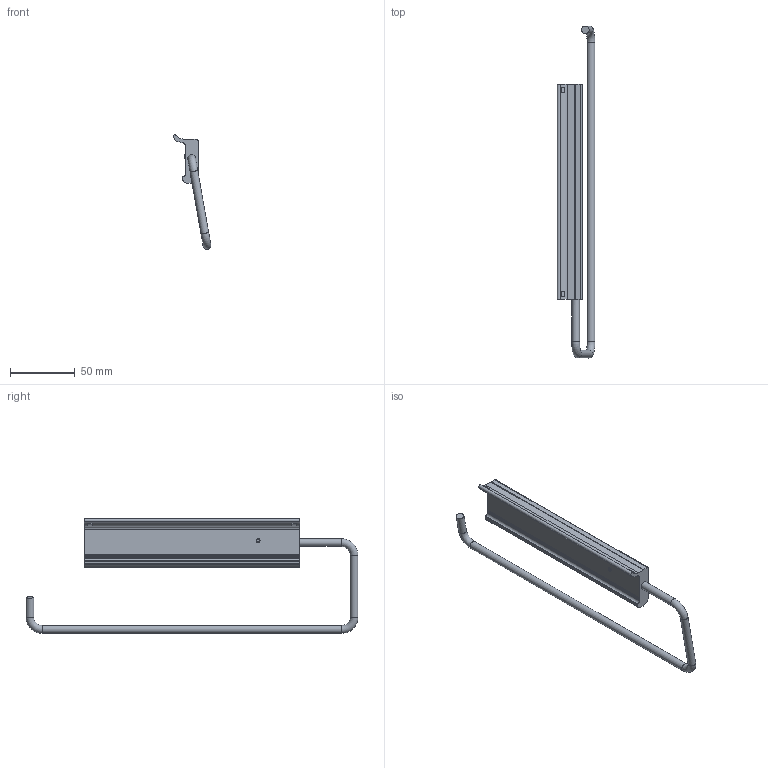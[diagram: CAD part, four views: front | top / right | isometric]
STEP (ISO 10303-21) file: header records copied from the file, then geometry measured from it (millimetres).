
FILE_DESCRIPTION(/* description */ ('Unknown'),/* implementation_level */ '2;1');
FILE_NAME(/* name */ '032 123 05 Zawieszka na ręcznik',/* time_stamp */ '2023-04-18T08:24:53+02:00',/* author */ ('Unknown'),/* organization */ ('Unknown'),/* preprocessor_version */ 'ST-DEVELOPER v18.102',/* originating_system */ 'Solid Edge',/* authorisation */ 'Unknown');
FILE_SCHEMA (('AUTOMOTIVE_DESIGN {1 0 10303 214 3 1 1}'));
Length unit declared in the file: millimetre
Products named in the file (5): 032 123 05 Zawieszka na rêcznik; 032 123 05-01 Zawieszka; 032 123 05-02 Drut; Wa³ek silikon; Œruba bez ³ba M3x4
Assembly tree (5 placements, depth 2):
  032 123 05 Zawieszka na rêcznik
    032 123 05-01 Zawieszka
    032 123 05-02 Drut
    Wa³ek silikon  x2
    Œruba bez ³ba M3x4
Bounding box: 29.08 x 256 x 88.34 mm (x, y, z)
Volume: 71601.9 mm3; surface area: 27578.9 mm2
Topology: 5 solids, 5 shells, 72 faces, 176 edges, 115 vertices
Faces by surface type: plane 38, cylinder 29, torus 3, cone 2
Full cylindrical faces by diameter (mm): 2.459 x2, 3 x1, 6 x5
Entity records: 2448 total; most frequent: DIRECTION 363, CARTESIAN_POINT 348, ORIENTED_EDGE 302, EDGE_CURVE 151, AXIS2_PLACEMENT_3D 139, VERTEX_POINT 107, FACE_BOUND 90, EDGE_LOOP 89
